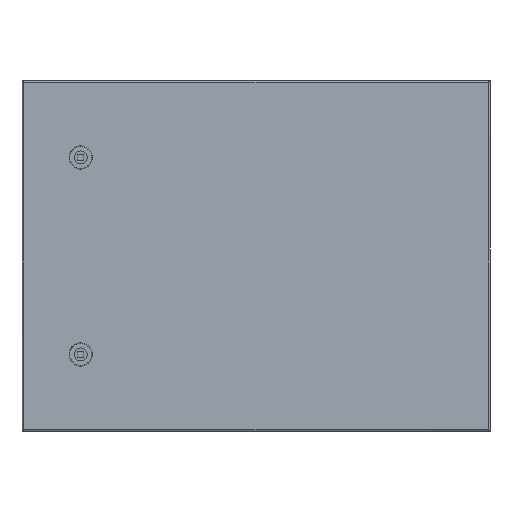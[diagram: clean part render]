
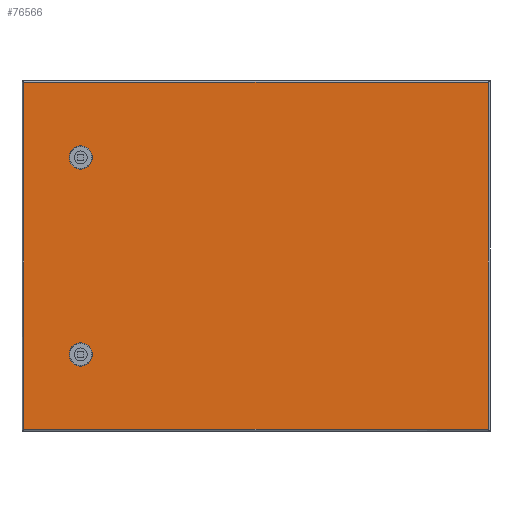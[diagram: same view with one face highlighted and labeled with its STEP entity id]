
A CAD part, top view. The second image highlights one B-rep face of the part: STEP entity #76566.
In plain terms, the highlighted planar face has unit normal (0, 0, 1).
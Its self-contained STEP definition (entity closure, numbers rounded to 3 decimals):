
#74201=CARTESIAN_POINT(' ',(591.7,220.2,0.));
#74206=DIRECTION(' ',(-1.,0.,0.));
#74211=VECTOR(' ',#74206,1.);
#74216=LINE('',#74201,#74211);
#74221=CARTESIAN_POINT(' ',(591.7,220.2,0.));
#74222=VERTEX_POINT(' ',#74221);
#74226=CARTESIAN_POINT(' ',(2.3,220.2,0.));
#74227=VERTEX_POINT(' ',#74226);
#74231=EDGE_CURVE(' ',#74222,#74227,#74216,.T.);
#76426=DIRECTION(' ',(-0.,-0.,1.));
#76431=CARTESIAN_POINT(' ',(591.7,-220.2,0.));
#76436=DIRECTION(' ',(0.,1.,0.));
#76441=AXIS2_PLACEMENT_3D(' ',#76431,#76426,#76436);
#76446=PLANE('NONE',#76441);
#76451=CARTESIAN_POINT(' ',(2.3,-220.2,0.));
#76456=DIRECTION(' ',(1.,0.,0.));
#76461=VECTOR(' ',#76456,1.);
#76466=LINE('',#76451,#76461);
#76471=CARTESIAN_POINT(' ',(2.3,-220.2,0.));
#76472=VERTEX_POINT(' ',#76471);
#76476=CARTESIAN_POINT(' ',(591.7,-220.2,0.));
#76477=VERTEX_POINT(' ',#76476);
#76481=EDGE_CURVE(' ',#76472,#76477,#76466,.T.);
#76486=ORIENTED_EDGE(' ',*,*,#76481,.T.);
#76491=CARTESIAN_POINT(' ',(591.7,220.2,0.));
#76496=DIRECTION(' ',(0.,-1.,0.));
#76501=VECTOR(' ',#76496,1.);
#76506=LINE('',#76491,#76501);
#76511=EDGE_CURVE(' ',#74222,#76477,#76506,.T.);
#76516=ORIENTED_EDGE(' ',*,*,#76511,.F.);
#76521=ORIENTED_EDGE(' ',*,*,#74231,.T.);
#76526=CARTESIAN_POINT(' ',(2.3,220.2,0.));
#76531=DIRECTION(' ',(0.,-1.,0.));
#76536=VECTOR(' ',#76531,1.);
#76541=LINE('',#76526,#76536);
#76546=EDGE_CURVE(' ',#74227,#76472,#76541,.T.);
#76551=ORIENTED_EDGE(' ',*,*,#76546,.T.);
#76556=EDGE_LOOP(' ',(#76486,#76516,#76521,#76551));
#76561=FACE_OUTER_BOUND(' ',#76556,.T.);
#76566=ADVANCED_FACE('NONE',(#76561),#76446,.T.);
